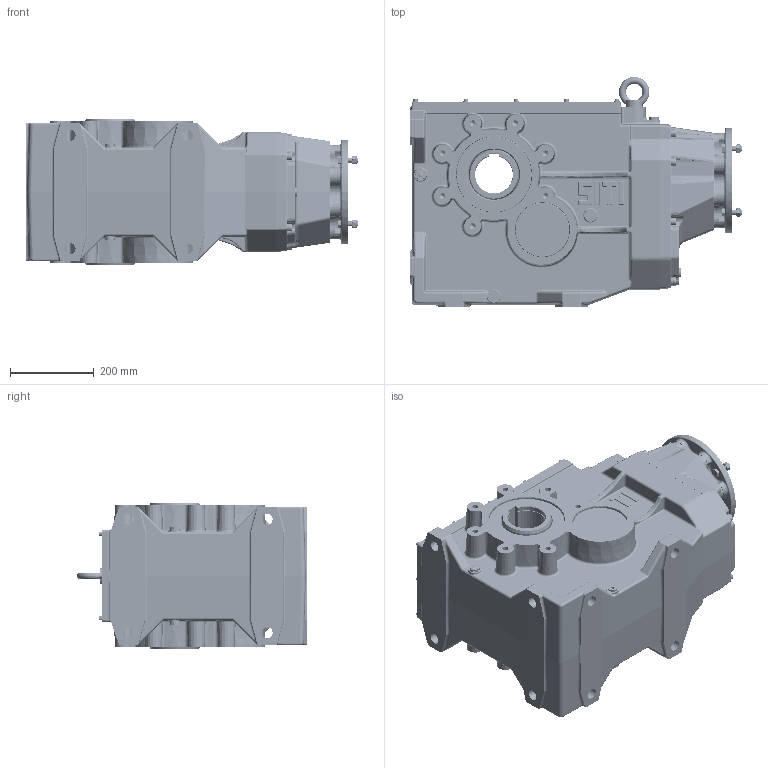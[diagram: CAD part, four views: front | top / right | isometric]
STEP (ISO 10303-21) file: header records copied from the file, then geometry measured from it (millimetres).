
FILE_DESCRIPTION((''),'2;1');
FILE_NAME('O:\Figurini\Figurini BH\3D\160\MBH 160 C PAM 100-112 B5.stp','2013-05-16T16:08:26',('d.iannaccio'),(''),'Autodesk Inventor 2012','Autodesk Inventor 2012','');
FILE_SCHEMA(('AUTOMOTIVE_DESIGN { 1 0 10303 214 1 1 1 1 }'));
Length unit declared in the file: millimetre
Products named in the file (1): MBH_160 C PAM 100-112 B5
Bounding box: 791 x 547.99 x 350 mm (x, y, z)
Volume: 24240826.1 mm3; surface area: 3440694.1 mm2
Topology: 70 solids, 72 shells, 3999 faces, 9611 edges, 5739 vertices
Faces by surface type: plane 1142, cylinder 1087, bspline 810, torus 466, cone 419, sphere 75
Full cylindrical faces by diameter (mm): 1.5 x1, 4.917 x12, 6 x24, 6.4 x12, 7 x12, 10 x12, 10.106 x16, 11 x2, 12 x54, 12.5 x14, 13 x16, 13.835 x14, 14 x4, 14.95 x8, 17.294 x3, 18 x16, 20.5 x16, 22 x1, 24 x1, 24.95 x1, 25 x2, 26 x9, 30 x5, 38 x1, 40 x1, 40.41 x1, 72 x1, 74.975 x2, 75.35 x1, 79.698 x1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
Entity records: 150841 total; most frequent: CARTESIAN_POINT 62096, ORIENTED_EDGE 17162, DIRECTION 17084, EDGE_CURVE 8581, AXIS2_PLACEMENT_3D 7237, VERTEX_POINT 5468, EDGE_LOOP 4876, STYLED_ITEM 4068
